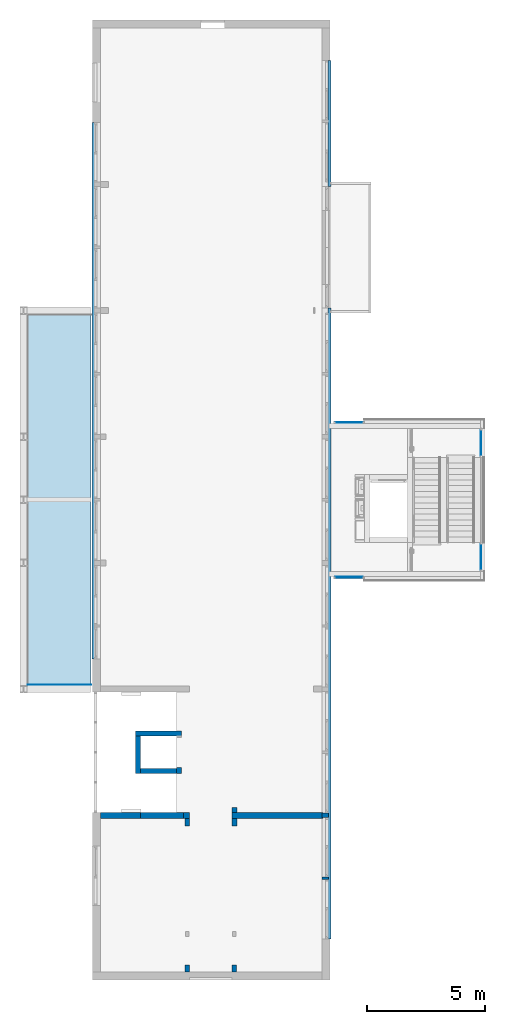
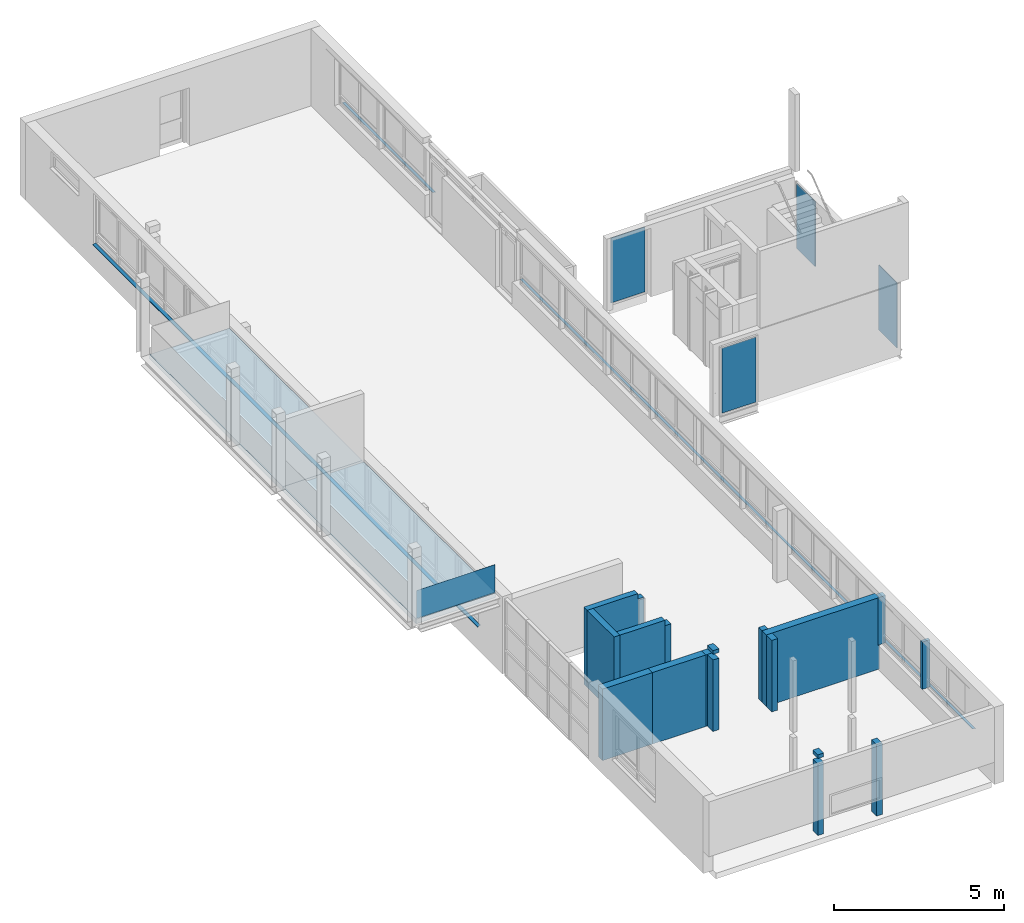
# One storey, part 2 of 14: 14 walls, 4 plates, 3 beams, 2 slabs, 4 elements without a shape of their own.
"""IFC2X3 building model written with IfcOpenShell, lengths in millimetres."""

import ifcopenshell
import ifcopenshell.guid

model = None  # the IFC model being written
_history = None  # IfcOwnerHistory: only IFC2X3 demands one
_inside = {}  # id of a spatial element -> (the spatial element, [elements in it])
_under = {}  # id of a project, library or spatial element -> (it, [spatial elements below it])
_declared = {}  # id of a project -> (the project, [libraries it declares])
_typed = {}  # id of a type object -> (the type object, [elements of that type])
_made_of = {}  # id of a material, layer set ... -> (it, [elements and type objects made of it])


def new_model(schema):
    """Start an empty IFC model of exactly this schema.

    Asked for "IFC4X3", IfcOpenShell would pick the latest addendum, in which some entities
    have other attributes; the version numbers below select the first issue.
    IFC2X3 requires an IfcOwnerHistory on every rooted entity: one is made here for all.
    """
    global model, _history
    if schema == "IFC4X3":
        model = ifcopenshell.file(schema_version=(4, 3, 0, 0))
    else:
        model = ifcopenshell.file(schema=schema)
    _inside.clear()
    _under.clear()
    _declared.clear()
    _typed.clear()
    _made_of.clear()
    _history = None
    if model.schema == "IFC2X3":
        org = make("IfcOrganization", Name="unknown")
        user = make(
            "IfcPersonAndOrganization",
            ThePerson=make("IfcPerson", FamilyName="unknown"),
            TheOrganization=org,
        )
        app = make(
            "IfcApplication",
            ApplicationDeveloper=org,
            Version="unknown",
            ApplicationFullName="unknown",
            ApplicationIdentifier="unknown",
        )
        _history = make(
            "IfcOwnerHistory",
            OwningUser=user,
            OwningApplication=app,
            ChangeAction="ADDED",
            CreationDate=0,
        )
    return model


def make(cls, **values):
    """One entity of the class cls with the attributes given. An attribute that is None is left unset."""
    return model.create_entity(
        cls, **{name: value for name, value in values.items() if value is not None}
    )


def entity(cls, *values):
    """Any entity or typed value of the class cls, its attributes in the order of the schema. None: left unset."""
    e = model.create_entity(cls)
    for i, value in enumerate(values):
        if value is not None:
            e[i] = value
    return e


def rooted(cls, **values):
    """An entity with a GlobalId (a new one), such as an element, a storey or a relation."""
    return make(cls, GlobalId=ifcopenshell.guid.new(), OwnerHistory=_history, **values)


def si_unit(unit_type, name, prefix=None):
    """IfcSIUnit, for example si_unit("LENGTHUNIT", "METRE", prefix="MILLI")."""
    return make("IfcSIUnit", UnitType=unit_type, Prefix=prefix, Name=name)


def converted_unit(unit_type, name, factor, base, dimensions=None, offset=None):
    """IfcConversionBasedUnit, such as the inch: factor (a typed value) times the base unit."""
    return make(
        "IfcConversionBasedUnit"
        if offset is None
        else "IfcConversionBasedUnitWithOffset",
        ConversionOffset=offset,
        Dimensions=None
        if dimensions is None
        else entity("IfcDimensionalExponents", *dimensions),
        UnitType=unit_type,
        Name=name,
        ConversionFactor=make(
            "IfcMeasureWithUnit", ValueComponent=factor, UnitComponent=base
        ),
    )


def derived_unit(unit_type, elements):
    """IfcDerivedUnit: a product of units, each with its exponent."""
    return make(
        "IfcDerivedUnit",
        Elements=[
            make("IfcDerivedUnitElement", Unit=unit, Exponent=power)
            for unit, power in elements
        ],
        UnitType=unit_type,
    )


def money_unit(currency):
    """IfcMonetaryUnit."""
    return make("IfcMonetaryUnit", Currency=currency)


def assignment(units):
    """IfcUnitAssignment: the units of a project."""
    return None if units is None else make("IfcUnitAssignment", Units=units)


def point(xyz):
    """IfcCartesianPoint."""
    return None if xyz is None else make("IfcCartesianPoint", Coordinates=xyz)


def direction(xyz):
    """IfcDirection."""
    return None if xyz is None else make("IfcDirection", DirectionRatios=xyz)


def frame(location, z_axis=None, x_axis=None):
    """IfcAxis2Placement3D, a coordinate frame: its origin and axes. An axis left out is left unset."""
    return make(
        "IfcAxis2Placement3D",
        Location=point(location),
        Axis=direction(z_axis),
        RefDirection=direction(x_axis),
    )


def origin_with_axes():
    """The frame at (0, 0, 0) with the z axis (0, 0, 1) and the x axis (1, 0, 0) written out."""
    return frame((0.0, 0.0, 0.0), z_axis=(0.0, 0.0, 1.0), x_axis=(1.0, 0.0, 0.0))


def place(relative_to, where):
    """IfcLocalPlacement: puts the frame where relative to a parent placement (None: the world)."""
    return make(
        "IfcLocalPlacement", PlacementRelTo=relative_to, RelativePlacement=where
    )


def context(
    kind, dimensions, precision=None, world=None, true_north=None, identifier=None
):
    """IfcGeometricRepresentationContext, for example the 3D "Model" context."""
    return make(
        "IfcGeometricRepresentationContext",
        ContextIdentifier=identifier,
        ContextType=kind,
        CoordinateSpaceDimension=dimensions,
        Precision=precision,
        WorldCoordinateSystem=world,
        TrueNorth=true_north,
    )


def subcontext(parent, identifier, kind, view, scale=None):
    """IfcGeometricRepresentationSubContext, for example "Body" below "Model"."""
    return make(
        "IfcGeometricRepresentationSubContext",
        ContextIdentifier=identifier,
        ContextType=kind,
        ParentContext=parent,
        TargetScale=scale,
        TargetView=view,
    )


def project(units=None, contexts=None):
    """IfcProject with its units and contexts."""
    return rooted(
        "IfcProject",
        Name="project",
        RepresentationContexts=contexts,
        UnitsInContext=assignment(units),
    )


def spatial(cls, under=None, at=None, **own):
    """A site, building, storey or space (cls), placed at a placement, below another one or the project."""
    s = rooted(cls, ObjectPlacement=at, **own)
    if under is not None:
        _under.setdefault(under.id(), (under, []))[1].append(s)
    return s


def faces_of(points, faces, orient=None, outer=None):
    """IfcFace entities. A face is a list of loops; a loop is a list of indices into points, from 0.

    orient and outer hold one flag for each loop. By default every Orientation is true, the
    first loop of a face is its IfcFaceOuterBound and the others are IfcFaceBound.
    """
    made = []
    for i, loops in enumerate(faces):
        bounds = []
        for j, loop in enumerate(loops):
            is_outer = j == 0 if outer is None else outer[i][j]
            bounds.append(
                make(
                    "IfcFaceOuterBound" if is_outer else "IfcFaceBound",
                    Bound=make("IfcPolyLoop", Polygon=[points[k] for k in loop]),
                    Orientation=True if orient is None else orient[i][j],
                )
            )
        made.append(make("IfcFace", Bounds=bounds))
    return made


def faceted_brep(points, faces, orient=None, outer=None, voids=None):
    """IfcFacetedBrep: a solid bounded by flat faces; with voids (closed shells), ...WithVoids."""
    shared = [point(p) for p in points]
    hull = make("IfcClosedShell", CfsFaces=faces_of(shared, faces, orient, outer))
    if voids is None:
        return make("IfcFacetedBrep", Outer=hull)
    return make(
        "IfcFacetedBrepWithVoids",
        Outer=hull,
        Voids=[
            make(cls, CfsFaces=faces_of(shared, fs, o, b)) for cls, fs, o, b in voids
        ],
    )


def shape(context_of_items, identifier, shape_type, items):
    """IfcShapeRepresentation: the items that make up one representation, for example the "Body"."""
    return make(
        "IfcShapeRepresentation",
        ContextOfItems=context_of_items,
        RepresentationIdentifier=identifier,
        RepresentationType=shape_type,
        Items=items,
    )


def source(mapping_origin, context_of_items, identifier, shape_type, items):
    """IfcRepresentationMap: a shape defined once, which mapped items show again and again."""
    return make(
        "IfcRepresentationMap",
        MappingOrigin=mapping_origin,
        MappedRepresentation=shape(context_of_items, identifier, shape_type, items),
    )


def transform(
    local_origin,
    x_axis=None,
    y_axis=None,
    z_axis=None,
    scale=None,
    scale2=None,
    scale3=None,
    uniform=True,
):
    """IfcCartesianTransformationOperator3D, or its non-uniform kind. x_axis, y_axis, z_axis: its Axis1, 2, 3."""
    if uniform:
        return make(
            "IfcCartesianTransformationOperator3D",
            Axis1=direction(x_axis),
            Axis2=direction(y_axis),
            LocalOrigin=point(local_origin),
            Scale=scale,
            Axis3=direction(z_axis),
        )
    return make(
        "IfcCartesianTransformationOperator3DnonUniform",
        Axis1=direction(x_axis),
        Axis2=direction(y_axis),
        LocalOrigin=point(local_origin),
        Scale=scale,
        Axis3=direction(z_axis),
        Scale2=scale2,
        Scale3=scale3,
    )


def mapped(mapping_source, mapping_target):
    """IfcMappedItem: shows the shape of a source again, moved by a transform."""
    return make(
        "IfcMappedItem", MappingSource=mapping_source, MappingTarget=mapping_target
    )


def material(Name=None, Category=None):
    """IfcMaterial."""
    return make("IfcMaterial", Name=Name, Category=Category)


def made_of(thing, what):
    """Note that an element or type object is made of a material, layer set ...; save() writes the relation."""
    if what is not None:
        _made_of.setdefault(what.id(), (what, []))[1].append(thing)
    return thing


def type_object(cls, material=None, **own):
    """A type object (cls), such as IfcWallType, which elements share."""
    return made_of(rooted(cls, **own), material)


def type_shapes(of_type, sources):
    """Give a type object the sources (RepresentationMaps) that its elements show as mapped items."""
    of_type.RepresentationMaps = sources


def element(
    cls,
    number,
    at=None,
    inside=None,
    cuts=None,
    type_object=None,
    material=None,
    context=None,
    identifier="Body",
    shape_type=None,
    held_by="IfcProductDefinitionShape",
    body=None,
    shapes=None,
    **own,
):
    """One element of the class cls, such as IfcWall. Its Tag is "e" and its number.

    at: its placement. inside: the storey or other place that contains it. cuts: it is an
    opening in that element (IfcRelVoidsElement). A single representation is given by context,
    identifier, shape_type and body (its items); several are given by shapes. held_by: the class
    of the entity that holds the representations. save() writes the other relations.
    """
    e = rooted(cls, Tag="e%d" % number, ObjectPlacement=at, **own)
    if body is not None:
        shapes = [shape(context, identifier, shape_type, body)]
    if shapes is not None:
        e.Representation = make(held_by, Representations=shapes)
    if inside is not None:
        _inside.setdefault(inside.id(), (inside, []))[1].append(e)
    if cuts is not None:
        rooted(
            "IfcRelVoidsElement", RelatingBuildingElement=cuts, RelatedOpeningElement=e
        )
    if type_object is not None:
        _typed.setdefault(type_object.id(), (type_object, []))[1].append(e)
    return made_of(e, material)


def aggregate(whole, parts):
    """IfcRelAggregates: a whole, such as a stair, and the parts it consists of."""
    return rooted("IfcRelAggregates", RelatingObject=whole, RelatedObjects=parts)


def save(model, path):
    """Write the relations noted so far, then the file.

    IfcRelAggregates (storeys below a building ...), IfcRelContainedInSpatialStructure (elements
    in a storey), IfcRelDefinesByType, IfcRelAssociatesMaterial and IfcRelDeclares: one each for
    every whole, place, type object, material and project.
    """
    for whole, parts in _under.values():
        aggregate(whole, parts)
    for where, things in _inside.values():
        rooted(
            "IfcRelContainedInSpatialStructure",
            RelatedElements=things,
            RelatingStructure=where,
        )
    for kind, things in _typed.values():
        rooted("IfcRelDefinesByType", RelatedObjects=things, RelatingType=kind)
    for what, things in _made_of.values():
        rooted("IfcRelAssociatesMaterial", RelatedObjects=things, RelatingMaterial=what)
    for by, libraries in _declared.values():
        rooted("IfcRelDeclares", RelatingContext=by, RelatedDefinitions=libraries)
    model.write(path)


model = new_model("IFC2X3")

# Units and contexts
model_context = context("Model", 3, precision=0.01, world=origin_with_axes(), true_north=direction((0.0, 1.0)))
body_context = subcontext(model_context, "Body", "Model", "MODEL_VIEW")
ifc_project = project(units=[si_unit("LENGTHUNIT", "METRE", prefix="MILLI"), si_unit("AREAUNIT", "SQUARE_METRE"), si_unit("VOLUMEUNIT", "CUBIC_METRE"), converted_unit("PLANEANGLEUNIT", "DEGREE", entity("IfcPlaneAngleMeasure", 0.0174532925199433), si_unit("PLANEANGLEUNIT", "RADIAN"), dimensions=[0, 0, 0, 0, 0, 0, 0]), money_unit("EUR"), converted_unit("TIMEUNIT", "Year", entity("IfcTimeMeasure", 31557600.0), si_unit("TIMEUNIT", "SECOND"), dimensions=[0, 0, 1, 0, 0, 0, 0]), si_unit("MASSUNIT", "GRAM", prefix="KILO"), si_unit("THERMODYNAMICTEMPERATUREUNIT", "DEGREE_CELSIUS"), si_unit("LUMINOUSINTENSITYUNIT", "LUMEN"), si_unit("ENERGYUNIT", "JOULE", prefix="MEGA"), derived_unit("THERMALCONDUCTANCEUNIT", [(si_unit("POWERUNIT", "WATT"), 1), (si_unit("LENGTHUNIT", "METRE"), -1), (si_unit("THERMODYNAMICTEMPERATUREUNIT", "KELVIN"), -1)]), derived_unit("SPECIFICHEATCAPACITYUNIT", [(si_unit("ENERGYUNIT", "JOULE"), 1), (si_unit("MASSUNIT", "GRAM", prefix="KILO"), -1), (si_unit("THERMODYNAMICTEMPERATUREUNIT", "KELVIN"), -1)]), derived_unit("MASSDENSITYUNIT", [(si_unit("MASSUNIT", "GRAM", prefix="KILO"), 1), (si_unit("VOLUMEUNIT", "CUBIC_METRE"), -1)])], contexts=[model_context])

# Site, building, storey
site_placement = place(None, origin_with_axes())
site = spatial("IfcSite", under=ifc_project, at=site_placement, Name="Site", CompositionType="ELEMENT")
building_placement = place(site_placement, origin_with_axes())
building = spatial("IfcBuilding", under=site, at=building_placement, Name="Naam gebouw", CompositionType="ELEMENT")
storey_placement = place(building_placement, frame((0.0, 0.0, 11460.0), z_axis=(0.0, 0.0, 1.0), x_axis=(1.0, 0.0, 0.0)))
storey = spatial("IfcBuildingStorey", under=building, at=storey_placement, Name="3e verdieping V", CompositionType="ELEMENT", Elevation=11460.0)

# Beams
ifc_material_1 = material(Name="Metaal - Aluminium")
beam_type = type_object("IfcBeamType", Name="Lekdorpel 107 x 49", PredefinedType="BEAM")
beam_1_placement = place(storey_placement, frame((30236.0, 49175.91242510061, 849.9999999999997), z_axis=(0.0, 0.0, 1.0), x_axis=(1.0, 0.0, 0.0)))
element("IfcBeam", 1, at=beam_1_placement, inside=storey, type_object=beam_type, material=ifc_material_1, Name="_Balk-x", ObjectType="BEAM", context=body_context, shape_type="Brep", body=[
    faceted_brep([(27.99999999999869, 0.0, -1.678199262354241), (27.99999999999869, 5329.999999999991, -1.678199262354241), (27.99999999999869, 5329.999999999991, -16.53589838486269), (27.99999999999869, 0.0, -16.53589838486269), (-77.00000000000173, 0.0, 16.83613371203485), (-77.00000000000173, 5329.999999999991, 16.83613371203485), (-77.00000000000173, 5329.999999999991, 28.51433297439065), (-74.99999999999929, 5329.999999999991, 28.51433297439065), (-74.99999999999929, 5329.999999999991, 18.51433297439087), (30.00000000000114, 5329.999999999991, 0.0), (30.00000000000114, 5329.999999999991, -19.99999999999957), (19.99999999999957, 5329.999999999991, -14.22649730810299), (19.99999999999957, 5329.999999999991, -11.91709623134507), (19.99999999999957, 0.0, -11.91709623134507), (19.99999999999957, 0.0, -14.22649730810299), (30.00000000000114, 0.0, -19.99999999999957), (30.00000000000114, 0.0, 0.0), (-74.99999999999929, 0.0, 18.51433297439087), (-74.99999999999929, 0.0, 28.51433297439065), (-77.00000000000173, 0.0, 28.51433297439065)], [[[0, 1, 2, 3]], [[4, 5, 1, 0]], [[2, 1, 5, 6, 7, 8, 9, 10, 11, 12]], [[3, 2, 12, 13]], [[4, 0, 3, 13, 14, 15, 16, 17, 18, 19]], [[19, 6, 5, 4]], [[18, 7, 6, 19]], [[17, 8, 7, 18]], [[16, 9, 8, 17]], [[15, 10, 9, 16]], [[14, 11, 10, 15]], [[13, 12, 11, 14]]]),
])
beam_2_placement = place(storey_placement, frame((30236.0, 17395.91242510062, 849.9999999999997), z_axis=(0.0, 0.0, 1.0), x_axis=(1.0, 0.0, 0.0)))
element("IfcBeam", 2, at=beam_2_placement, inside=storey, type_object=beam_type, material=ifc_material_1, Name="_Balk-x", ObjectType="BEAM", context=body_context, shape_type="Brep", body=[
    faceted_brep([(27.99999999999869, 0.0, -1.678199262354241), (27.99999999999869, 26649.99999999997, -1.678199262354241), (27.99999999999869, 26649.99999999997, -16.53589838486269), (27.99999999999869, 0.0, -16.53589838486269), (-77.00000000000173, 0.0, 16.83613371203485), (-77.00000000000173, 26649.99999999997, 16.83613371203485), (-77.00000000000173, 26649.99999999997, 28.51433297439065), (-74.99999999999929, 26649.99999999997, 28.51433297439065), (-74.99999999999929, 26649.99999999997, 18.51433297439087), (30.00000000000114, 26649.99999999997, 0.0), (30.00000000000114, 26649.99999999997, -19.99999999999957), (19.99999999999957, 26649.99999999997, -14.22649730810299), (19.99999999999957, 26649.99999999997, -11.91709623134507), (19.99999999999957, 0.0, -11.91709623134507), (19.99999999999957, 0.0, -14.22649730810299), (30.00000000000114, 0.0, -19.99999999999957), (30.00000000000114, 0.0, 0.0), (-74.99999999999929, 0.0, 18.51433297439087), (-74.99999999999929, 0.0, 28.51433297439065), (-77.00000000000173, 0.0, 28.51433297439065)], [[[0, 1, 2, 3]], [[4, 5, 1, 0]], [[2, 1, 5, 6, 7, 8, 9, 10, 11, 12]], [[3, 2, 12, 13]], [[4, 0, 3, 13, 14, 15, 16, 17, 18, 19]], [[19, 6, 5, 4]], [[18, 7, 6, 19]], [[17, 8, 7, 18]], [[16, 9, 8, 17]], [[15, 10, 9, 16]], [[14, 11, 10, 15]], [[13, 12, 11, 14]]]),
])
beam_3_placement = place(storey_placement, frame((20206.0, 51890.87989469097, 849.9999999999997), z_axis=(0.0, 0.0, 1.0), x_axis=(-1.0, 0.0, 0.0)))
element("IfcBeam", 3, at=beam_3_placement, inside=storey, type_object=beam_type, material=ifc_material_1, Name="_Balk-x", ObjectType="BEAM", context=body_context, shape_type="Brep", body=[
    faceted_brep([(27.99999999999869, 0.0, -1.678199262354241), (28.00000000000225, 22660.96746959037, -1.678199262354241), (28.00000000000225, 22660.96746959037, -16.53589838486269), (27.99999999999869, 0.0, -16.53589838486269), (-77.00000000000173, 0.0, 16.83613371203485), (-76.99999999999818, 22660.96746959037, 16.83613371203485), (-76.99999999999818, 22660.96746959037, 28.51433297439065), (-74.99999999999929, 22660.96746959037, 28.51433297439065), (-74.99999999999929, 22660.96746959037, 18.51433297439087), (30.00000000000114, 22660.96746959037, 0.0), (30.00000000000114, 22660.96746959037, -19.99999999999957), (19.99999999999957, 22660.96746959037, -14.22649730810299), (19.99999999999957, 22660.96746959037, -11.91709623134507), (19.99999999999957, 0.0, -11.91709623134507), (19.99999999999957, 0.0, -14.22649730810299), (30.00000000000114, 0.0, -19.99999999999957), (30.00000000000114, 0.0, 0.0), (-74.99999999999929, 0.0, 18.51433297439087), (-74.99999999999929, 0.0, 28.51433297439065), (-77.00000000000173, 0.0, 28.51433297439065)], [[[0, 1, 2, 3]], [[4, 5, 1, 0]], [[2, 1, 5, 6, 7, 8, 9, 10, 11, 12]], [[3, 2, 12, 13]], [[4, 0, 3, 13, 14, 15, 16, 17, 18, 19]], [[19, 6, 5, 4]], [[18, 7, 6, 19]], [[17, 8, 7, 18]], [[16, 9, 8, 17]], [[15, 10, 9, 16]], [[14, 11, 10, 15]], [[13, 12, 11, 14]]]),
])

# Curtain wall, plate
curtain_wall_type = type_object("IfcCurtainWallType", Name="Curtain Wall:21_CW_alu kozijn 070x065", PredefinedType="NOTDEFINED")
curtain_wall_1_placement = place(storey_placement, frame((0.0, 0.0, -11460.0), z_axis=(0.0, 0.0, 1.0), x_axis=(1.0, 0.0, 0.0)))
curtain_wall_1 = element("IfcCurtainWall", 4, at=curtain_wall_1_placement, inside=storey, type_object=curtain_wall_type, Name="Curtain Wall:21_CW_alu kozijn 070x065", ObjectType="Curtain Wall:21_CW_alu kozijn 070x065")
ifc_material_2 = material(Name="Glass")
plate_type_1 = type_object("IfcPlateType", Name="System Panel:31_CWP_alu glas_2", PredefinedType="CURTAIN_PANEL")
shared_shape_1 = source(origin_with_axes(), body_context, "Body", "Brep", [
    faceted_brep([(540.0000000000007, -12.00000000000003, 0.0), (540.0000000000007, 11.99999999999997, 0.0), (540.0000000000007, 11.99999999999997, 2330.000000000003), (540.0000000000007, -12.00000000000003, 2330.000000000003), (-540.0000000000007, -11.99999999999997, 0.0), (-540.0000000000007, 12.00000000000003, 0.0), (-540.0000000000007, 12.00000000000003, 2330.000000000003), (-540.0000000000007, -11.99999999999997, 2330.000000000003)], [[[0, 1, 2, 3]], [[0, 4, 5, 1]], [[1, 5, 6, 2]], [[3, 2, 6, 7]], [[4, 0, 3, 7]], [[5, 4, 7, 6]]]),
])
type_shapes(plate_type_1, [shared_shape_1])
plate_1_placement = place(curtain_wall_1_placement, frame((36612.50000004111, 33535.912426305, 14300.0), z_axis=(0.0, 0.0, 1.0), x_axis=(0.0, -1.0, 0.0)))
plate_1 = element("IfcPlate", 5, at=plate_1_placement, type_object=plate_type_1, material=ifc_material_2, Name="System Panel:31_CWP_alu glas_2", ObjectType="CURTAIN_PANEL", context=body_context, shape_type="MappedRepresentation", body=[
    mapped(shared_shape_1, transform((0.0, 0.0, 0.0))),
])
aggregate(curtain_wall_1, [plate_1])

curtain_wall_2_placement = place(storey_placement, frame((0.0, 0.0, -11460.0), z_axis=(0.0, 0.0, 1.0), x_axis=(1.0, 0.0, 0.0)))
curtain_wall_2 = element("IfcCurtainWall", 6, at=curtain_wall_2_placement, inside=storey, type_object=curtain_wall_type, Name="Curtain Wall:21_CW_alu kozijn 070x065", ObjectType="Curtain Wall:21_CW_alu kozijn 070x065")
plate_2_placement = place(curtain_wall_2_placement, frame((36612.50000001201, 38355.91242625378, 14300.0), z_axis=(0.0, 0.0, 1.0), x_axis=(0.0, -1.0, 0.0)))
plate_2 = element("IfcPlate", 7, at=plate_2_placement, type_object=plate_type_1, material=ifc_material_2, Name="System Panel:31_CWP_alu glas_2", ObjectType="CURTAIN_PANEL", context=body_context, shape_type="MappedRepresentation", body=[
    mapped(shared_shape_1, transform((0.0, 0.0, 0.0))),
])
aggregate(curtain_wall_2, [plate_2])

curtain_wall_3_placement = place(storey_placement, frame((0.0, 0.0, -11460.0), z_axis=(0.0, 0.0, 1.0), x_axis=(1.0, 0.0, 0.0)))
curtain_wall_3 = element("IfcCurtainWall", 8, at=curtain_wall_3_placement, inside=storey, type_object=curtain_wall_type, Name="Curtain Wall:21_CW_alu kozijn 070x065", ObjectType="Curtain Wall:21_CW_alu kozijn 070x065")
plate_type_2 = type_object("IfcPlateType", Name="System Panel:31_CWP_alu glas_2", PredefinedType="CURTAIN_PANEL")
shared_shape_2 = source(origin_with_axes(), body_context, "Body", "Brep", [
    faceted_brep([(577.0051413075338, -12.00000000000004, 0.0), (577.0051413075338, 11.99999999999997, 0.0), (577.0051413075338, 11.99999999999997, 2330.000000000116), (577.0051413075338, -12.00000000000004, 2330.000000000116), (-577.0051413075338, -11.99999999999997, 0.0), (-577.0051413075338, 12.00000000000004, 0.0), (-577.0051413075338, 12.00000000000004, 2330.000000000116), (-577.0051413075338, -11.99999999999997, 2330.000000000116)], [[[0, 1, 2, 3]], [[0, 4, 5, 1]], [[1, 5, 6, 2]], [[3, 2, 6, 7]], [[4, 0, 3, 7]], [[5, 4, 7, 6]]]),
])
type_shapes(plate_type_2, [shared_shape_2])
plate_3_placement = place(curtain_wall_3_placement, frame((31038.00514136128, 39212.4124263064, 14300.0), z_axis=(0.0, 0.0, 1.0), x_axis=(-1.0, 0.0, 0.0)))
plate_3 = element("IfcPlate", 9, at=plate_3_placement, type_object=plate_type_2, material=ifc_material_2, Name="System Panel:31_CWP_alu glas_2", ObjectType="CURTAIN_PANEL", context=body_context, shape_type="MappedRepresentation", body=[
    mapped(shared_shape_2, transform((0.0, 0.0, 0.0))),
])
aggregate(curtain_wall_3, [plate_3])

curtain_wall_4_placement = place(storey_placement, frame((0.0, 0.0, -11460.0), z_axis=(0.0, 0.0, 1.0), x_axis=(1.0, 0.0, 0.0)))
curtain_wall_4 = element("IfcCurtainWall", 10, at=curtain_wall_4_placement, inside=storey, type_object=curtain_wall_type, Name="Curtain Wall:21_CW_alu kozijn 070x065", ObjectType="Curtain Wall:21_CW_alu kozijn 070x065")
plate_type_3 = type_object("IfcPlateType", Name="System Panel:31_CWP_alu glas_2", PredefinedType="CURTAIN_PANEL")
type_shapes(plate_type_3, [shared_shape_2])
plate_4_placement = place(curtain_wall_4_placement, frame((31038.00514136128, 32679.41242631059, 14300.0), z_axis=(0.0, 0.0, 1.0), x_axis=(-1.0, 0.0, 0.0)))
plate_4 = element("IfcPlate", 11, at=plate_4_placement, type_object=plate_type_3, material=ifc_material_2, Name="System Panel:31_CWP_alu glas_2", ObjectType="CURTAIN_PANEL", context=body_context, shape_type="MappedRepresentation", body=[
    mapped(shared_shape_2, transform((0.0, 0.0, 0.0))),
])
aggregate(curtain_wall_4, [plate_4])

# Slabs
ifc_material_3 = material(Name="beton")
slab_type = type_object("IfcSlabType", Name="Floor:23_3B_beton 170mm + 50mm metal deck", PredefinedType="FLOOR")
slab_1_placement = place(storey_placement, frame((20140.9999999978, 35950.91242628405, 2770.00000000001), z_axis=(0.0, 0.0, 1.0), x_axis=(1.0, 0.0, 0.0)))
element("IfcSlab", 12, at=slab_1_placement, inside=storey, type_object=slab_type, material=ifc_material_3, Name="Floor:23_3B_beton 170mm + 50mm metal deck", PredefinedType="FLOOR", context=body_context, shape_type="Brep", body=[
    faceted_brep([(0.0, 0.0, 0.0), (0.0, 0.0, -169.9999999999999), (-2698.999999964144, 5.820766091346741e-08, -169.9999999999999), (-2698.999999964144, 5.820766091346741e-08, 0.0), (2.91038304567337e-08, -7844.999999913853, 0.0), (2.91038304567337e-08, -7844.999999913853, -169.9999999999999), (-2698.999999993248, -7844.99999997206, -169.9999999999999), (-2698.999999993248, -7844.99999997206, 0.0)], [[[0, 1, 2, 3]], [[4, 5, 1, 0]], [[2, 1, 5, 6]], [[3, 2, 6, 7]], [[4, 0, 3, 7]], [[7, 6, 5, 4]]]),
])
slab_2_placement = place(storey_placement, frame((20141.00000002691, 43795.91242631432, 2770.00000000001), z_axis=(0.0, 0.0, 1.0), x_axis=(1.0, 0.0, 0.0)))
element("IfcSlab", 13, at=slab_2_placement, inside=storey, type_object=slab_type, material=ifc_material_3, Name="Floor:23_3B_beton 170mm + 50mm metal deck", PredefinedType="FLOOR", context=body_context, shape_type="Brep", body=[
    faceted_brep([(0.0, 0.0, 0.0), (0.0, 0.0, -169.9999999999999), (-2698.999999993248, 0.0, -169.9999999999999), (-2698.999999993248, 0.0, 0.0), (-2.91038304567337e-08, -7845.000000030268, 0.0), (-2.91038304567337e-08, -7845.000000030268, -169.9999999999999), (-2698.999999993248, -7844.99999997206, -169.9999999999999), (-2698.999999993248, -7844.99999997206, 0.0)], [[[0, 1, 2, 3]], [[4, 5, 1, 0]], [[2, 1, 5, 6]], [[3, 2, 6, 7]], [[4, 0, 3, 7]], [[7, 6, 5, 4]]]),
])

# Walls
ifc_material_4 = material(Name="ALG - CONSTRUCTIEF")
wall_type_1 = type_object("IfcWallType", Name="ALG - CONSTRUCTIEF 200", PredefinedType="NOTDEFINED")
wall_1_placement = place(storey_placement, frame((22125.0, 24495.91245076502, 0.0), z_axis=(0.0, 0.0, 1.0), x_axis=(1.0, 0.0, 0.0)))
element("IfcWall", 14, at=wall_1_placement, inside=storey, type_object=wall_type_1, material=ifc_material_4, Name="_Wand-x", context=body_context, shape_type="Brep", body=[
    faceted_brep([(100.0000000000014, 100.0000000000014, 2770.0), (1624.999999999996, 100.0000000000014, 2770.0), (1624.999999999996, 100.0000000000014, 2570.0), (1630.444270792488, 100.0000000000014, 2570.0), (1630.444270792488, 100.0000000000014, 0.0), (100.0000000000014, 100.0000000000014, 0.0), (100.0000000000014, -100.0000000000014, 2770.0), (1624.999999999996, -100.0000000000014, 2770.0), (1624.999999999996, -100.0000000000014, 2570.0), (1630.444270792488, -100.0000000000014, 2570.0), (1630.444270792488, -100.0000000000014, 0.0), (100.0000000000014, -100.0000000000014, 0.0), (100.0000000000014, -100.0000000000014, 2670.0)], [[[0, 1, 2, 3, 4, 5]], [[6, 7, 1, 0]], [[8, 2, 1, 7]], [[8, 9, 3, 2]], [[4, 3, 9, 10]], [[11, 5, 4, 10]], [[5, 11, 12, 6, 0]], [[9, 8, 7, 6, 12, 11, 10]]]),
])
wall_2_placement = place(storey_placement, frame((23855.44427079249, 24395.91245076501, 0.0), z_axis=(0.0, 0.0, 1.0), x_axis=(0.0, 1.0, 0.0)))
element("IfcWall", 15, at=wall_2_placement, inside=storey, type_object=wall_type_1, material=ifc_material_4, Name="_Wand-x", context=body_context, shape_type="Brep", body=[
    faceted_brep([(260.1245461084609, 100.0000000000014, 0.0), (260.1245461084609, 100.0000000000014, 2570.0), (260.1245461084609, -100.0000000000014, 2570.0), (260.1245461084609, -100.0000000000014, 0.0), (0.0, 100.0000000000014, 0.0), (0.0, 100.0000000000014, 2570.0), (0.0, -100.0000000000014, 2570.0), (0.0, -100.0000000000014, 0.0)], [[[0, 1, 2, 3]], [[4, 5, 1, 0]], [[5, 6, 2, 1]], [[3, 2, 6, 7]], [[3, 7, 4, 0]], [[7, 6, 5, 4]]]),
])
wall_3_placement = place(storey_placement, frame((26199.99999999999, 22170.91242510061, 0.0), z_axis=(0.0, 0.0, 1.0), x_axis=(0.0, 1.0, 0.0)))
element("IfcWall", 16, at=wall_3_placement, inside=storey, type_object=wall_type_1, material=ifc_material_4, Name="_Wand-x", context=body_context, shape_type="Brep", body=[
    faceted_brep([(579.9999999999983, -100.0000000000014, 2570.0), (774.9999999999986, -100.0000000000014, 2570.0), (774.9999999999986, 100.0000000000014, 2570.0), (579.9999999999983, 100.0000000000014, 2570.0), (579.9999999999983, -100.0000000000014, 0.0), (774.9999999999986, -100.0000000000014, 0.0), (774.9999999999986, 100.0000000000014, 0.0), (579.9999999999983, 100.0000000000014, 0.0)], [[[0, 1, 2, 3]], [[4, 5, 1, 0]], [[2, 1, 5, 6]], [[3, 2, 6, 7]], [[4, 0, 3, 7]], [[7, 6, 5, 4]]]),
    faceted_brep([(329.9999999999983, -100.0000000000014, 2570.0), (329.9999999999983, 100.0000000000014, 2570.0), (0.0, 100.0000000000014, 2570.0), (0.0, -100.0000000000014, 2570.0), (329.9999999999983, -100.0000000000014, 0.0), (329.9999999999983, 100.0000000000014, 0.0), (0.0, 100.0000000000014, 0.0), (0.0, -100.0000000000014, 0.0)], [[[0, 1, 2, 3]], [[1, 0, 4, 5]], [[1, 5, 6, 2]], [[7, 3, 2, 6]], [[4, 0, 3, 7]], [[5, 4, 7, 6]]]),
])
wall_4_placement = place(storey_placement, frame((24200.0, 16000.91242510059, -99.99999999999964), z_axis=(0.0, 0.0, 1.0), x_axis=(0.0, 1.0, 0.0)))
element("IfcWall", 17, at=wall_4_placement, inside=storey, type_object=wall_type_1, material=ifc_material_4, Name="_Wand-x", context=body_context, shape_type="Brep", body=[
    faceted_brep([(295.6226220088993, 100.0000000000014, 99.99999999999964), (295.6226220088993, 100.0000000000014, 2670.0), (295.6226220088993, -100.0000000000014, 2670.0), (295.6226220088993, -100.0000000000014, 99.99999999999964), (0.0, 100.0000000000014, 99.99999999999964), (0.0, 100.0000000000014, 2670.0), (0.0, -100.0000000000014, 2670.0), (0.0, -100.0000000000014, 99.99999999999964)], [[[0, 1, 2, 3]], [[4, 5, 1, 0]], [[5, 6, 2, 1]], [[3, 2, 6, 7]], [[4, 0, 3, 7]], [[7, 6, 5, 4]]]),
    faceted_brep([(0.0, -100.0000000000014, 3000.0), (0.0, -100.0000000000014, 2869.999999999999), (295.6226220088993, -100.0000000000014, 2869.999999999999), (295.6226220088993, -100.0000000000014, 3000.0), (0.0, 100.0000000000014, 3000.0), (0.0, 100.0000000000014, 2869.999999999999), (295.6226220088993, 100.0000000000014, 2869.999999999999), (295.6226220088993, 100.0000000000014, 3000.0)], [[[0, 1, 2, 3]], [[4, 5, 1, 0]], [[5, 6, 2, 1]], [[3, 2, 6, 7]], [[3, 7, 4, 0]], [[7, 6, 5, 4]]]),
])
wall_5_placement = place(storey_placement, frame((26189.99999999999, 16000.91242510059, -99.99999999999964), z_axis=(0.0, 0.0, 1.0), x_axis=(0.0, 1.0, 0.0)))
element("IfcWall", 18, at=wall_5_placement, inside=storey, type_object=wall_type_1, material=ifc_material_4, Name="_Wand-x", context=body_context, shape_type="Brep", body=[
    faceted_brep([(0.0, -100.0000000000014, 2670.0), (0.0, -100.0000000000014, 99.99999999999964), (295.6226220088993, -100.0000000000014, 99.99999999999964), (295.6226220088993, -100.0000000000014, 2670.0), (0.0, 100.0000000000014, 2670.0), (0.0, 100.0000000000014, 99.99999999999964), (295.6226220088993, 100.0000000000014, 99.99999999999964), (295.6226220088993, 100.0000000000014, 2670.0)], [[[0, 1, 2, 3]], [[4, 5, 1, 0]], [[5, 6, 2, 1]], [[3, 2, 6, 7]], [[3, 7, 4, 0]], [[7, 6, 5, 4]]]),
])
wall_6_placement = place(storey_placement, frame((24200.0, 22170.91242510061, -99.99999999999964), z_axis=(0.0, 0.0, 1.0), x_axis=(0.0, 1.0, 0.0)))
element("IfcWall", 19, at=wall_6_placement, inside=storey, type_object=wall_type_1, material=ifc_material_4, Name="_Wand-x", context=body_context, shape_type="Brep", body=[
    faceted_brep([(329.9999999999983, 100.0000000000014, 99.99999999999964), (329.9999999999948, 100.0000000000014, 2670.0), (329.9999999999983, -100.0000000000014, 2670.0), (329.9999999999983, -100.0000000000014, 99.99999999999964), (0.0, 100.0000000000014, 99.99999999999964), (0.0, 100.0000000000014, 2670.0), (0.0, -100.0000000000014, 2670.0), (0.0, -100.0000000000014, 99.99999999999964)], [[[0, 1, 2, 3]], [[4, 5, 1, 0]], [[5, 6, 2, 1]], [[3, 2, 6, 7]], [[4, 0, 3, 7]], [[7, 6, 5, 4]]]),
    faceted_brep([(0.0, -100.0000000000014, 3000.0), (0.0, -100.0000000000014, 2869.999999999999), (329.9999999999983, -100.0000000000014, 2869.999999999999), (329.9999999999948, -100.0000000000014, 3000.0), (0.0, 100.0000000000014, 3000.0), (0.0, 100.0000000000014, 2869.999999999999), (329.9999999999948, 100.0000000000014, 2869.999999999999), (329.9999999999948, 100.0000000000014, 3000.0)], [[[0, 1, 2, 3]], [[4, 5, 1, 0]], [[5, 6, 2, 1]], [[3, 2, 6, 7]], [[4, 0, 3, 7]], [[7, 6, 5, 4]]]),
])
wall_7_placement = place(storey_placement, frame((22125.0, 26080.91242510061, 0.0), z_axis=(0.0, 0.0, 1.0), x_axis=(1.0, 0.0, 0.0)))
element("IfcWall", 20, at=wall_7_placement, inside=storey, type_object=wall_type_1, material=ifc_material_4, Name="_Wand-x", context=body_context, shape_type="Brep", body=[
    faceted_brep([(-100.0000000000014, 100.0000000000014, 2770.0), (1624.999999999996, 100.0000000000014, 2770.0), (1624.999999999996, 100.0000000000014, 2570.0), (1830.444270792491, 100.0000000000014, 2570.0), (1830.444270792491, 100.0000000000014, 0.0), (-100.0000000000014, 100.0000000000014, 0.0), (-100.0000000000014, 100.0000000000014, 2670.0), (-100.0000000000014, -100.0000000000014, 2770.0), (1624.999999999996, -100.0000000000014, 2770.0), (1624.999999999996, -100.0000000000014, 2570.0), (1830.444270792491, -100.0000000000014, 2570.0), (1830.444270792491, -100.0000000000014, 0.0), (-100.0000000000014, -100.0000000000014, 0.0)], [[[0, 1, 2, 3, 4, 5, 6]], [[7, 8, 1, 0]], [[9, 2, 1, 8]], [[9, 10, 3, 2]], [[4, 3, 10, 11]], [[11, 12, 5, 4]], [[5, 12, 7, 0, 6]], [[10, 9, 8, 7, 12, 11]]]),
])
wall_8_placement = place(storey_placement, frame((22125.0, 26080.91242510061, 0.0), z_axis=(0.0, 0.0, 1.0), x_axis=(0.0, -1.0, 0.0)))
element("IfcWall", 21, at=wall_8_placement, inside=storey, type_object=wall_type_1, material=ifc_material_4, Name="_Wand-x", context=body_context, shape_type="Brep", body=[
    faceted_brep([(100.0000000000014, -100.0000000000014, 2670.0), (100.0000000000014, -100.0000000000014, 2770.0), (100.0000000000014, 100.0000000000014, 2770.0), (100.000000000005, 100.0000000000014, 0.0), (100.000000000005, -100.0000000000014, 0.0), (1684.999974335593, -100.0000000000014, 0.0), (1684.999974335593, -100.0000000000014, 2770.0), (1684.999974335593, 100.0000000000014, 2770.0), (1684.999974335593, 100.0000000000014, 0.0)], [[[0, 1, 2, 3, 4]], [[5, 6, 1, 0, 4]], [[6, 7, 2, 1]], [[3, 2, 7, 8]], [[5, 4, 3, 8]], [[8, 7, 6, 5]]]),
])
wall_type_2 = type_object("IfcWallType", Name="ALG - CONSTRUCTIEF 250", PredefinedType="NOTDEFINED")
wall_9_placement = place(storey_placement, frame((26099.99999999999, 22625.91242510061, 0.0), z_axis=(0.0, 0.0, 1.0), x_axis=(1.0, 0.0, 0.0)))
element("IfcWall", 22, at=wall_9_placement, inside=storey, type_object=wall_type_2, material=ifc_material_4, Name="_Wand-x", context=body_context, shape_type="Brep", body=[
    faceted_brep([(3845.000000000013, -125.0, 2549.999999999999), (3845.000000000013, 125.0, 2549.999999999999), (3845.000000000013, 125.0, 2570.0), (3845.000000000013, -125.0, 2570.0), (3806.000000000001, -125.0, 2549.999999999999), (3806.000000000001, 125.0, 2549.999999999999), (3806.000000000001, 125.0, 849.9999999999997), (3845.000000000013, 125.0, 849.9999999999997), (3845.000000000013, 125.0, 0.0), (0.0, 125.0, 0.0), (0.0, 125.0, 2570.0), (0.0, -125.0, 2570.0), (0.0, -125.0, 0.0), (3845.000000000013, -125.0, 0.0), (3845.000000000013, -125.0, 849.9999999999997), (3806.000000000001, -125.0, 849.9999999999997)], [[[0, 1, 2, 3]], [[1, 0, 4, 5]], [[6, 7, 8, 9, 10, 2, 1, 5]], [[10, 11, 3, 2]], [[4, 0, 3, 11, 12, 13, 14, 15]], [[4, 15, 6, 5]], [[15, 14, 7, 6]], [[14, 13, 8, 7]], [[12, 9, 8, 13]], [[11, 10, 9, 12]]]),
])
wall_10_placement = place(storey_placement, frame((22229.99999999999, 22625.91242510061, 0.0), z_axis=(0.0, 0.0, 1.0), x_axis=(1.0, 0.0, 0.0)))
element("IfcWall", 23, at=wall_10_placement, inside=storey, type_object=wall_type_2, material=ifc_material_4, Name="_Wand-x", context=body_context, shape_type="Brep", body=[
    faceted_brep([(0.0, 125.0, 0.0), (0.0, 124.9999999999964, 2570.0), (1520.0, 124.9999999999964, 2570.0), (1816.000000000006, 125.0, 2570.0), (1816.000000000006, 125.0, 0.0), (0.0, -125.0, 0.0), (0.0, -125.0, 2570.0), (1816.000000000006, -125.0, 2570.0), (1816.000000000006, -125.0, 0.0)], [[[0, 1, 2, 3, 4]], [[5, 6, 1, 0]], [[3, 2, 1, 6, 7]], [[4, 3, 7, 8]], [[8, 5, 0, 4]], [[7, 6, 5, 8]]]),
])
wall_11_placement = place(storey_placement, frame((20536.0, 22625.91242510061, -99.99999999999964), z_axis=(0.0, 0.0, 1.0), x_axis=(1.0, 0.0, 0.0)))
element("IfcWall", 24, at=wall_11_placement, inside=storey, type_object=wall_type_2, material=ifc_material_4, Name="_Wand-x", context=body_context, shape_type="Brep", body=[
    faceted_brep([(890.0000000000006, 125.0000000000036, 99.99999999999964), (0.0, 125.0000000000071, 99.99999999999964), (0.0, 124.9999999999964, 2670.0), (1693.999999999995, 124.9999999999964, 2670.0), (1693.999999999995, 125.0, 99.99999999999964), (0.0, -124.9999999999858, 99.99999999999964), (1693.999999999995, -125.0, 99.99999999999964), (0.0, -125.0, 2670.0), (1693.999999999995, -125.0, 2670.0)], [[[0, 1, 2, 3, 4]], [[5, 1, 0, 4, 6]], [[1, 5, 7, 2]], [[2, 7, 8, 3]], [[6, 4, 3, 8]], [[5, 6, 8, 7]]]),
    faceted_brep([(3510.000000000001, 125.0, 99.99999999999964), (3510.000000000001, 125.0, 2670.0), (3764.0, 125.0, 2670.0), (3764.0, 125.0, 99.99999999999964), (3510.000000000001, -125.0, 99.99999999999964), (3510.000000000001, -125.0, 2670.0), (3764.0, -125.0, 2670.0), (3764.0, -125.0, 99.99999999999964)], [[[0, 1, 2, 3]], [[4, 5, 1, 0]], [[5, 6, 2, 1]], [[3, 2, 6, 7]], [[4, 0, 3, 7]], [[7, 6, 5, 4]]]),
])
wall_type_3 = type_object("IfcWallType", Name="ALG - CONSTRUCTIEF 260", PredefinedType="NOTDEFINED")
wall_12_placement = place(storey_placement, frame((30165.99999999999, 22525.91242510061, 849.9999999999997), z_axis=(0.0, 0.0, 1.0), x_axis=(0.0, 1.0, 0.0)))
element("IfcWall", 25, at=wall_12_placement, inside=storey, type_object=wall_type_3, material=ifc_material_4, Name="_Wand-x", context=body_context, shape_type="Brep", body=[
    faceted_brep([(0.0, 0.0, 1700.000000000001), (0.0, 0.0, 17.63269807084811), (200.0000000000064, 0.0, 17.63269807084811), (200.0000000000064, 0.0, 1700.000000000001), (0.0, 4.999999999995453, 28.51433297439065), (0.0, 4.999999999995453, 18.51433297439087), (0.0, 260.0000000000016, 1700.000000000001), (0.0, 260.0000000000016, 0.0), (0.0, 0.0, 0.0), (0.0, 0.0, 15.60184484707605), (0.0, 6.999999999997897, 16.83613371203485), (0.0, 6.999999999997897, 28.51433297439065), (200.0000000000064, 4.999999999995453, 18.51433297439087), (200.0000000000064, 6.999999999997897, 28.51433297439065), (200.0000000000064, 6.999999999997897, 16.83613371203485), (200.0000000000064, 0.0, 15.60184484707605), (200.0000000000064, 0.0, 0.0), (200.0000000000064, 260.0000000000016, 0.0), (200.0000000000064, 260.0000000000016, 1700.000000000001), (200.0000000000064, 4.999999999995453, 28.51433297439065)], [[[0, 1, 2, 3]], [[4, 5, 1, 0, 6, 7, 8, 9, 10, 11]], [[5, 12, 2, 1]], [[13, 14, 15, 16, 17, 18, 3, 2, 12, 19]], [[6, 0, 3, 18]], [[4, 19, 12, 5]], [[7, 6, 18, 17]], [[8, 7, 17, 16]], [[16, 15, 9, 8]], [[10, 9, 15, 14]], [[10, 14, 13, 11]], [[11, 13, 19, 4]]]),
])
wall_13_placement = place(storey_placement, frame((30165.99999999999, 19910.91242510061, 849.9999999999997), z_axis=(0.0, 0.0, 1.0), x_axis=(0.0, 1.0, 0.0)))
element("IfcWall", 26, at=wall_13_placement, inside=storey, type_object=wall_type_3, material=ifc_material_4, Name="_Wand-x", context=body_context, shape_type="Brep", body=[
    faceted_brep([(0.0, 0.0, 1700.000000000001), (0.0, 0.0, 17.63269807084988), (100.0000000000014, 0.0, 17.63269807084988), (100.0000000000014, 0.0, 1700.000000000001), (0.0, 4.9999999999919, 28.51433297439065), (0.0, 4.9999999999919, 18.51433297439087), (0.0, 260.0000000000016, 1700.000000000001), (0.0, 260.0000000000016, 0.0), (0.0, 0.0, 0.0), (0.0, 0.0, 15.60184484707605), (0.0, 6.999999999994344, 16.83613371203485), (0.0, 6.999999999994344, 28.51433297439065), (100.0000000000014, 4.999999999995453, 18.51433297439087), (100.0000000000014, 6.999999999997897, 28.51433297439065), (100.0000000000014, 6.999999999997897, 16.83613371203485), (100.0000000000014, 0.0, 15.60184484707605), (100.0000000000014, 0.0, 0.0), (99.99999999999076, 260.0000000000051, 0.0), (99.99999999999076, 260.0000000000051, 1700.000000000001), (100.0000000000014, 4.999999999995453, 28.51433297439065)], [[[0, 1, 2, 3]], [[4, 5, 1, 0, 6, 7, 8, 9, 10, 11]], [[5, 12, 2, 1]], [[13, 14, 15, 16, 17, 18, 3, 2, 12, 19]], [[6, 0, 3, 18]], [[4, 19, 12, 5]], [[7, 6, 18, 17]], [[8, 7, 17, 16]], [[16, 15, 9, 8]], [[10, 9, 15, 14]], [[10, 14, 13, 11]], [[11, 13, 19, 4]]]),
])
ifc_material_5 = material(Name="glas gehard")
wall_type_4 = type_object("IfcWallType", Name="Basic Wall:34_WA_hard glazen balustrade", PredefinedType="STANDARD")
wall_14_placement = place(storey_placement, frame((20141.00000005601, 28135.91242628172, 2770.00000000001), z_axis=(0.0, 0.0, 1.0), x_axis=(-1.0, 0.0, 0.0)))
element("IfcWall", 27, at=wall_14_placement, inside=storey, type_object=wall_type_4, material=ifc_material_5, Name="Basic Wall:34_WA_hard glazen balustrade", context=body_context, shape_type="Brep", body=[
    faceted_brep([(2675.000000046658, -5.000000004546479, 0.0), (1.101341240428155e-10, -5.000000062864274, 0.0), (-1.06581410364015e-10, 5.000000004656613, 0.0), (2675.000000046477, 5.000000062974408, 0.0), (2675.000000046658, -5.000000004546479, 999.9999999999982), (1.101341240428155e-10, -5.000000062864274, 999.9999999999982), (-1.06581410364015e-10, 5.000000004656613, 999.9999999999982), (2675.000000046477, 5.000000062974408, 999.9999999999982)], [[[0, 1, 2, 3]], [[4, 5, 1, 0]], [[2, 1, 5, 6]], [[3, 2, 6, 7]], [[3, 7, 4, 0]], [[7, 6, 5, 4]]]),
])

save(model, "model.ifc")
